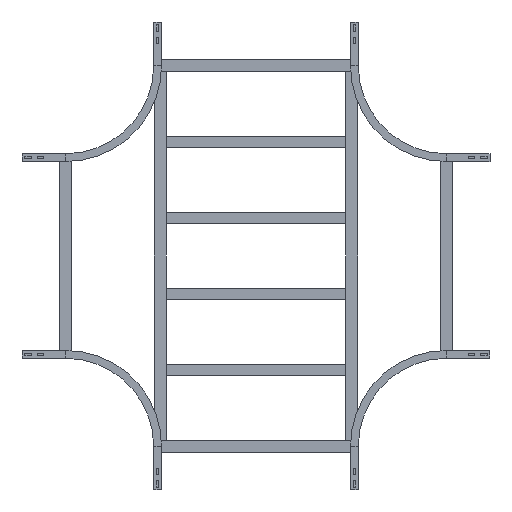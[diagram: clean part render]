
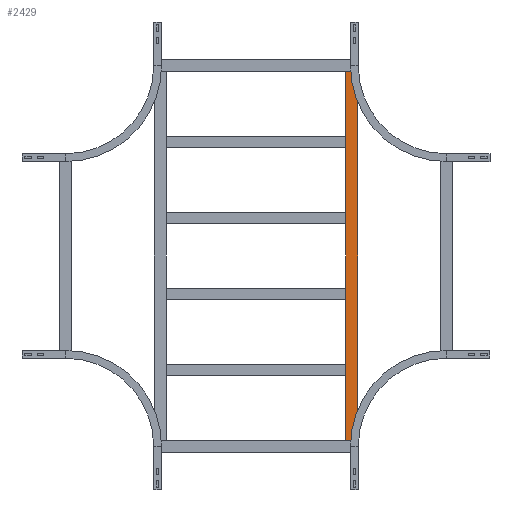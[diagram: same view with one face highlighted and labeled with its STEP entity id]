
A CAD part, front view. The second image highlights one B-rep face of the part: STEP entity #2429.
In plain terms, the highlighted planar face has unit normal (0, -1, 0).
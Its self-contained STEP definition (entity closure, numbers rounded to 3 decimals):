
#1 = VECTOR ( 'NONE', #1489, 1000. ) ;
#27 = LINE ( 'NONE', #2168, #1011 ) ;
#107 = CARTESIAN_POINT ( 'NONE',  ( 629.75, 0., 20.25 ) ) ;
#138 = CARTESIAN_POINT ( 'NONE',  ( 629.75, 0., -20.25 ) ) ;
#177 = EDGE_CURVE ( 'NONE', #1003, #1777, #909, .T. ) ;
#197 = CARTESIAN_POINT ( 'NONE',  ( -629.75, 0., -20.25 ) ) ;
#424 = DIRECTION ( 'NONE',  ( 0., 0., -1. ) ) ;
#550 = VECTOR ( 'NONE', #884, 1000. ) ;
#624 = ORIENTED_EDGE ( 'NONE', *, *, #1874, .F. ) ;
#687 = VERTEX_POINT ( 'NONE', #1890 ) ;
#710 = CARTESIAN_POINT ( 'NONE',  ( -629.75, 0., 20.25 ) ) ;
#884 = DIRECTION ( 'NONE',  ( -1., 0., 0. ) ) ;
#909 = LINE ( 'NONE', #107, #550 ) ;
#916 = DIRECTION ( 'NONE',  ( -1., 0., 0. ) ) ;
#933 = AXIS2_PLACEMENT_3D ( 'NONE', #1385, #1943, #1634 ) ;
#1003 = VERTEX_POINT ( 'NONE', #2186 ) ;
#1011 = VECTOR ( 'NONE', #424, 1000. ) ;
#1121 = EDGE_CURVE ( 'NONE', #1777, #1387, #2453, .T. ) ;
#1385 = CARTESIAN_POINT ( 'NONE',  ( 629.75, 0., 20.25 ) ) ;
#1387 = VERTEX_POINT ( 'NONE', #197 ) ;
#1489 = DIRECTION ( 'NONE',  ( 0., 0., -1. ) ) ;
#1628 = EDGE_LOOP ( 'NONE', ( #1642, #624, #1674, #1854 ) ) ;
#1634 = DIRECTION ( 'NONE',  ( 0., 0., 1. ) ) ;
#1642 = ORIENTED_EDGE ( 'NONE', *, *, #1121, .T. ) ;
#1674 = ORIENTED_EDGE ( 'NONE', *, *, #2059, .F. ) ;
#1777 = VERTEX_POINT ( 'NONE', #2091 ) ;
#1854 = ORIENTED_EDGE ( 'NONE', *, *, #177, .T. ) ;
#1874 = EDGE_CURVE ( 'NONE', #687, #1387, #2081, .T. ) ;
#1890 = CARTESIAN_POINT ( 'NONE',  ( 629.75, 0., -20.25 ) ) ;
#1931 = PLANE ( 'NONE',  #933 ) ;
#1943 = DIRECTION ( 'NONE',  ( 0., 1., 0. ) ) ;
#2059 = EDGE_CURVE ( 'NONE', #1003, #687, #27, .T. ) ;
#2074 = VECTOR ( 'NONE', #916, 1000. ) ;
#2081 = LINE ( 'NONE', #138, #2074 ) ;
#2091 = CARTESIAN_POINT ( 'NONE',  ( -629.75, 0., 20.25 ) ) ;
#2168 = CARTESIAN_POINT ( 'NONE',  ( 629.75, 0., 20.25 ) ) ;
#2186 = CARTESIAN_POINT ( 'NONE',  ( 629.75, 0., 20.25 ) ) ;
#2343 = FACE_OUTER_BOUND ( 'NONE', #1628, .T. ) ;
#2429 = ADVANCED_FACE ( 'NONE', ( #2343 ), #1931, .F. ) ;
#2453 = LINE ( 'NONE', #710, #1 ) ;
